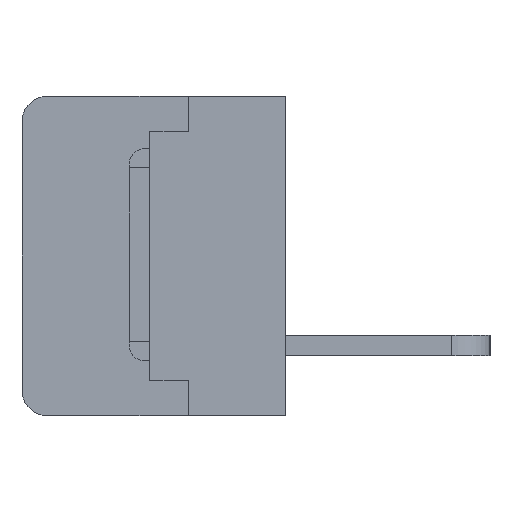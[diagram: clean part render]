
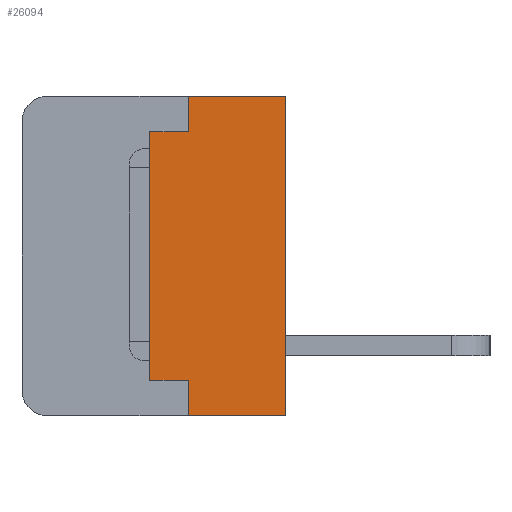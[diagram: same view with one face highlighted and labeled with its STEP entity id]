
A CAD part, left-side view. The second image highlights one B-rep face of the part: STEP entity #26094.
In plain terms, the highlighted planar face has unit normal (-1, 0, 0).
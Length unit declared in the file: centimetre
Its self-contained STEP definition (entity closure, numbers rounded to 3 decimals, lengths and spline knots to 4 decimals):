
#1550=PLANE('',#42975);
#2270=VECTOR('',#27429,1.);
#2373=VECTOR('',#27588,1.);
#2411=VECTOR('',#27629,1.);
#2448=VECTOR('',#27667,1.);
#3987=VECTOR('',#31312,1.);
#3988=VECTOR('',#31313,1.);
#3989=VECTOR('',#31314,1.);
#3990=VECTOR('',#31315,1.);
#4966=LINE('',#33977,#2270);
#5069=LINE('',#34212,#2373);
#5107=LINE('',#34290,#2411);
#5144=LINE('',#34363,#2448);
#6683=LINE('',#39800,#3987);
#6684=LINE('',#39802,#3988);
#6685=LINE('',#39803,#3989);
#6686=LINE('',#39805,#3990);
#7598=VERTEX_POINT('',#33976);
#7599=VERTEX_POINT('',#33978);
#7652=VERTEX_POINT('',#34128);
#7693=VERTEX_POINT('',#34211);
#7731=VERTEX_POINT('',#34289);
#7767=VERTEX_POINT('',#34364);
#9288=VERTEX_POINT('',#39801);
#9289=VERTEX_POINT('',#39804);
#10963=EDGE_CURVE('',#7598,#7599,#4966,.T.);
#11079=EDGE_CURVE('',#7693,#7652,#5069,.T.);
#11118=EDGE_CURVE('',#7652,#7731,#5107,.T.);
#11155=EDGE_CURVE('',#7731,#7767,#5144,.T.);
#13500=EDGE_CURVE('',#9288,#7693,#6683,.T.);
#13501=EDGE_CURVE('',#7599,#9288,#6684,.T.);
#13502=EDGE_CURVE('',#9289,#7598,#6685,.T.);
#13503=EDGE_CURVE('',#7767,#9289,#6686,.T.);
#20625=ORIENTED_EDGE('',*,*,#13500,.F.);
#20626=ORIENTED_EDGE('',*,*,#13501,.F.);
#20627=ORIENTED_EDGE('',*,*,#10963,.F.);
#20628=ORIENTED_EDGE('',*,*,#13502,.F.);
#20629=ORIENTED_EDGE('',*,*,#13503,.F.);
#20630=ORIENTED_EDGE('',*,*,#11155,.F.);
#20631=ORIENTED_EDGE('',*,*,#11118,.F.);
#20632=ORIENTED_EDGE('',*,*,#11079,.F.);
#23035=EDGE_LOOP('',(#20625,#20626,#20627,#20628,#20629,#20630,#20631,#20632));
#24649=FACE_BOUND('',#23035,.T.);
#26094=ADVANCED_FACE('',(#24649),#1550,.F.);
#27429=DIRECTION('',(0.,0.,1.));
#27588=DIRECTION('',(0.,-1.,0.));
#27629=DIRECTION('',(0.,0.,-1.));
#27667=DIRECTION('',(0.,1.,0.));
#31311=DIRECTION('',(1.,0.,0.));
#31312=DIRECTION('',(0.,0.,1.));
#31313=DIRECTION('',(0.,-1.,0.));
#31314=DIRECTION('',(0.,1.,0.));
#31315=DIRECTION('',(0.,0.,1.));
#33976=CARTESIAN_POINT('',(-1.382,0.53,-0.485));
#33977=CARTESIAN_POINT('',(-1.382,0.53,-0.485));
#33978=CARTESIAN_POINT('',(-1.382,0.53,0.485));
#34128=CARTESIAN_POINT('',(-1.382,0.,0.625));
#34211=CARTESIAN_POINT('',(-1.382,0.38,0.625));
#34212=CARTESIAN_POINT('',(-1.382,0.38,0.625));
#34289=CARTESIAN_POINT('',(-1.382,0.,-0.625));
#34290=CARTESIAN_POINT('',(-1.382,0.,0.625));
#34363=CARTESIAN_POINT('',(-1.382,0.,-0.625));
#34364=CARTESIAN_POINT('',(-1.382,0.38,-0.625));
#39799=CARTESIAN_POINT('',(-1.382,0.2532,0.));
#39800=CARTESIAN_POINT('',(-1.382,0.38,0.485));
#39801=CARTESIAN_POINT('',(-1.382,0.38,0.485));
#39802=CARTESIAN_POINT('',(-1.382,0.53,0.485));
#39803=CARTESIAN_POINT('',(-1.382,0.38,-0.485));
#39804=CARTESIAN_POINT('',(-1.382,0.38,-0.485));
#39805=CARTESIAN_POINT('',(-1.382,0.38,-0.625));
#42975=AXIS2_PLACEMENT_3D('',#39799,#31311,$);
